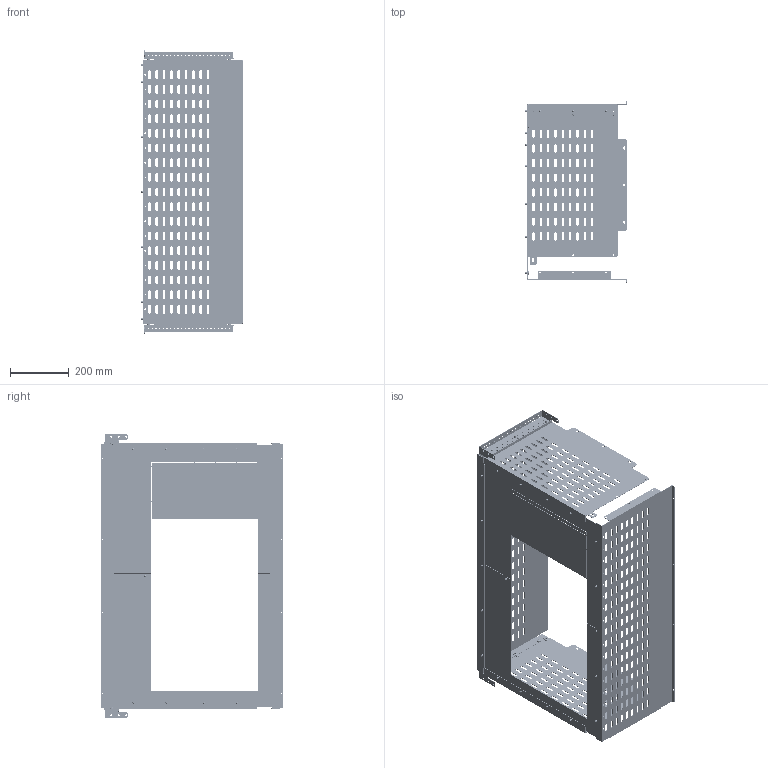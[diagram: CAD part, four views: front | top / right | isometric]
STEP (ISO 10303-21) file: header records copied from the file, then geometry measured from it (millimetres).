
FILE_DESCRIPTION (( 'STEP AP214' ), '1' );
FILE_NAME ('FO-00-3AGW-060-100 Êîìïëåêò ñåêöèîíèðîâàíèÿ 2a-3a äëÿ ARMAT ACB òèïîðàçìåð G âûêàòíîãî èñïîëíåíèÿ 3II4P 600õ1000.STEP', '2025-08-21T07:57:33', ( '' ), ( '' ), 'SwSTEP 2.0', 'SolidWorks 2023', '' );
FILE_SCHEMA (( 'AUTOMOTIVE_DESIGN' ));
Products named in the file (1): FO-00-3AGW-060-100 Комплект секционирования 2a-3a для ARMAT ACB типоразмер G выкатного исполнения 3II4P 600х1000
Bounding box: 349 x 622 x 966 mm (x, y, z)
Volume: 2049975 mm3; surface area: 2597672.5 mm2
Topology: 1 solids, 21 shells, 3857 faces, 11050 edges, 7291 vertices
Faces by surface type: cylinder 2167, plane 1504, cone 62, torus 62, sphere 62
Entity records: 131470 total; most frequent: CARTESIAN_POINT 25015, DIRECTION 22355, ORIENTED_EDGE 22100, EDGE_CURVE 11050, AXIS2_PLACEMENT_3D 8017, VERTEX_POINT 7291, LINE 6321, VECTOR 6321
